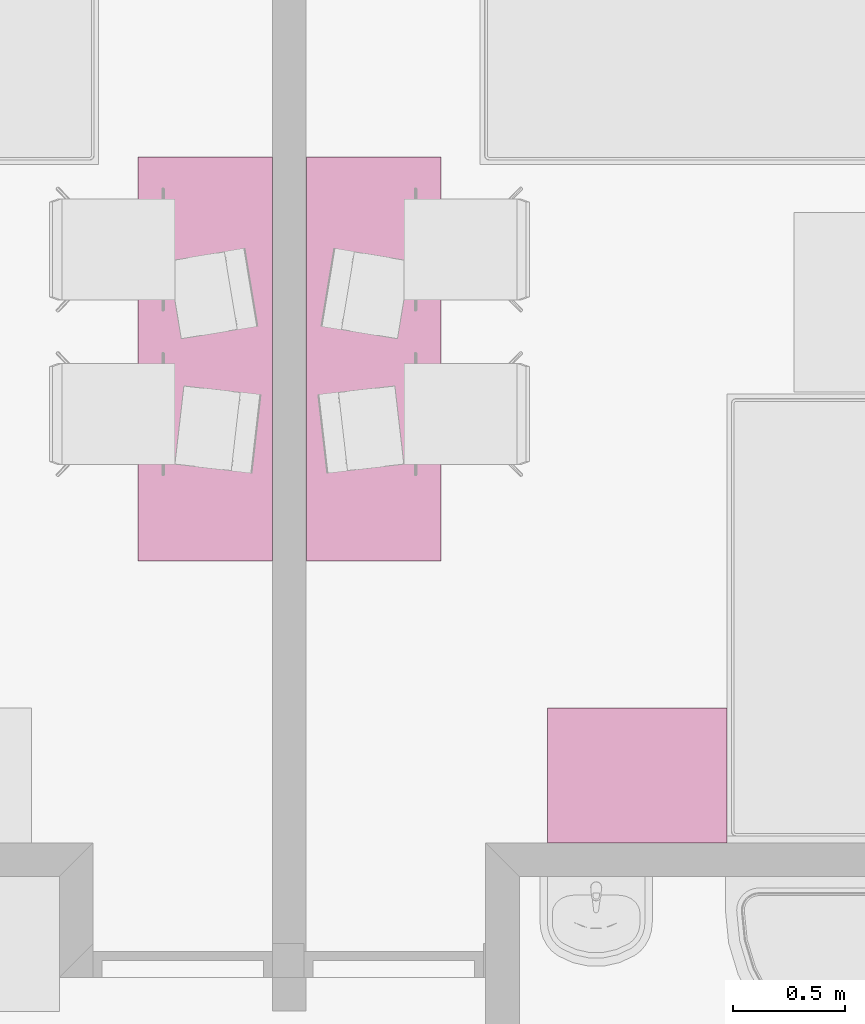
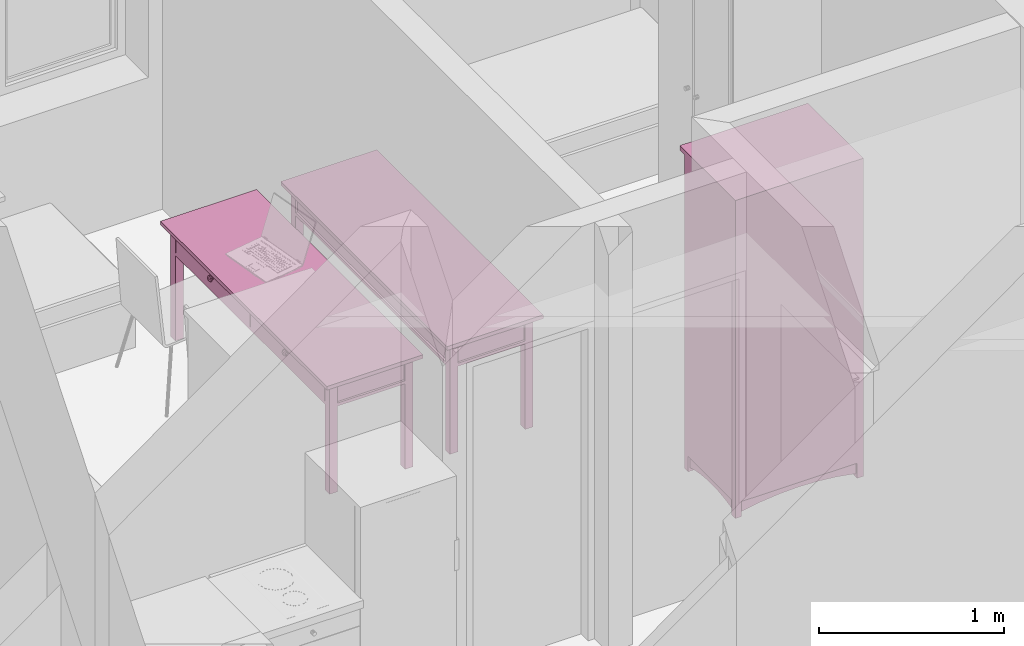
# One storey, part 113 of 172: 3 furnishings.
"""IFC2X3 building model written with IfcOpenShell, lengths in millimetres."""

from ifc_helpers import new_model, entity, si_unit, converted_unit, money_unit, direction, frame, origin_with_axes, place, context, subcontext, project, spatial, faceted_brep, source, transform, mapped, material, material_list, type_object, element, save


model = new_model("IFC2X3")

# Units and contexts
model_context = context("Model", 3, precision=1e-05, world=origin_with_axes(), true_north=direction((0.0, 1.0)))
body_context = subcontext(model_context, "Body", "Model", "MODEL_VIEW")
ifc_project = project(units=[si_unit("LENGTHUNIT", "METRE", prefix="MILLI"), si_unit("AREAUNIT", "SQUARE_METRE"), si_unit("VOLUMEUNIT", "CUBIC_METRE"), converted_unit("PLANEANGLEUNIT", "DEGREE", entity("IfcPlaneAngleMeasure", 0.0174532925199), si_unit("PLANEANGLEUNIT", "RADIAN"), dimensions=[0, 0, 0, 0, 0, 0, 0]), si_unit("SOLIDANGLEUNIT", "STERADIAN"), money_unit("USD"), converted_unit("TIMEUNIT", "Year", entity("IfcTimeMeasure", 31556926.0), si_unit("TIMEUNIT", "SECOND"), dimensions=[0, 0, 0, 0, 0, 0, 0]), si_unit("MASSUNIT", "GRAM"), si_unit("THERMODYNAMICTEMPERATUREUNIT", "DEGREE_CELSIUS"), si_unit("LUMINOUSINTENSITYUNIT", "LUMEN")], contexts=[model_context])

# Site, building, storey
site_placement = place(None, origin_with_axes())
site = spatial("IfcSite", under=ifc_project, at=site_placement, Name="Site", CompositionType="ELEMENT")
building_placement = place(site_placement, origin_with_axes())
building = spatial("IfcBuilding", under=site, at=building_placement, Name="Building", CompositionType="ELEMENT")
storey_placement = place(building_placement, frame((0.0, 0.0, 3200.0), z_axis=(0.0, 0.0, 1.0), x_axis=(1.0, 0.0, 0.0)))
storey = spatial("IfcBuildingStorey", under=building, at=storey_placement, Name="3KORRUS", CompositionType="ELEMENT", Elevation=3200.0)

# Furnishings
ifc_material = material(Name="Background")
ifc_material_list = material_list([ifc_material])
furnishing_element_type_1 = type_object("IfcFurnishingElementType", Name="Cupboard 19")
shared_shape_1 = source(origin_with_axes(), body_context, "Body", "Brep", [
    faceted_brep([(-780.0, 600.0, 120.0), (-780.0, 580.0, 120.0), (-780.0, 580.0, 2050.0), (-780.0, 600.0, 2050.0), (-20.0, 600.0, 120.0), (-20.0, 580.0, 120.0), (-20.0, 580.0, 2050.0), (-20.0, 600.0, 2050.0)], [[[0, 1, 2, 3]], [[0, 4, 5, 1]], [[1, 5, 6, 2]], [[3, 2, 6, 7]], [[4, 0, 3, 7]], [[5, 4, 7, 6]]]),
    faceted_brep([(0.0, 50.0, 100.0), (-20.0, 50.0, 100.0), (-20.0, 600.0, 100.0), (0.0, 600.0, 100.0), (0.0, 50.0, 2070.0), (-20.0, 50.0, 2070.0), (-20.0, 600.0, 2070.0), (0.0, 600.0, 2070.0)], [[[0, 1, 2, 3]], [[1, 0, 4, 5]], [[2, 1, 5, 6]], [[3, 2, 6, 7]], [[0, 3, 7, 4]], [[5, 4, 7, 6]]]),
    faceted_brep([(-780.0, 50.0, 100.0), (-800.0, 50.0, 100.0), (-800.0, 600.0, 100.0), (-780.0, 600.0, 100.0), (-780.0, 50.0, 2070.0), (-800.0, 50.0, 2070.0), (-800.0, 600.0, 2070.0), (-780.0, 600.0, 2070.0)], [[[0, 1, 2, 3]], [[1, 0, 4, 5]], [[2, 1, 5, 6]], [[3, 2, 6, 7]], [[0, 3, 7, 4]], [[5, 4, 7, 6]]]),
    faceted_brep([(-20.0, 50.0, 100.0), (-780.0, 50.0, 100.0), (-780.0, 600.0, 100.0), (-20.0, 600.0, 100.0), (-20.0, 50.0, 120.0), (-780.0, 50.0, 120.0), (-780.0, 600.0, 120.0), (-20.0, 600.0, 120.0)], [[[0, 1, 2, 3]], [[1, 0, 4, 5]], [[2, 1, 5, 6]], [[3, 2, 6, 7]], [[0, 3, 7, 4]], [[5, 4, 7, 6]]]),
    faceted_brep([(-20.0, 50.0, 2050.0), (-780.0, 50.0, 2050.0), (-780.0, 600.0, 2050.0), (-20.0, 600.0, 2050.0), (-20.0, 50.0, 2070.0), (-780.0, 50.0, 2070.0), (-780.0, 600.0, 2070.0), (-20.0, 600.0, 2070.0)], [[[0, 1, 2, 3]], [[1, 0, 4, 5]], [[2, 1, 5, 6]], [[3, 2, 6, 7]], [[0, 3, 7, 4]], [[5, 4, 7, 6]]]),
    faceted_brep([(0.0, 600.0, 2070.0), (0.0, 600.0, 2100.0), (0.0, 0.0, 2100.0), (0.0, 0.0, 2070.0), (-800.0, 600.0, 2070.0), (-800.0, 600.0, 2100.0), (-800.0, 0.0, 2100.0), (-800.0, 0.0, 2070.0)], [[[0, 1, 2, 3]], [[4, 5, 1, 0]], [[1, 5, 6, 2]], [[3, 2, 6, 7]], [[0, 3, 7, 4]], [[7, 6, 5, 4]]]),
    faceted_brep([(-760.0, 590.0, 25.0), (-640.962, 590.0, 45.8), (-640.962, 570.0, 45.8), (-760.0, 570.0, 25.0), (-760.0, 590.0, 100.0), (-40.0, 590.0, 100.0), (-40.0, 590.0, 25.0), (-159.038, 590.0, 45.8), (-279.23, 590.0, 58.32), (-400.0, 590.0, 62.5), (-520.77, 590.0, 58.32), (-520.77, 570.0, 58.32), (-400.0, 570.0, 62.5), (-279.23, 570.0, 58.32), (-159.038, 570.0, 45.8), (-40.0, 570.0, 25.0), (-40.0, 570.0, 100.0), (-760.0, 570.0, 100.0)], [[[0, 1, 2, 3]], [[0, 4, 5, 6, 7, 8, 9, 10, 1]], [[1, 10, 11, 2]], [[3, 2, 11, 12, 13, 14, 15, 16, 17]], [[4, 0, 3, 17]], [[5, 4, 17, 16]], [[6, 5, 16, 15]], [[7, 6, 15, 14]], [[8, 7, 14, 13]], [[9, 8, 13, 12]], [[10, 9, 12, 11]]]),
    faceted_brep([(-760.0, 80.0, 25.0), (-640.962, 80.0, 45.8), (-640.962, 60.0, 45.8), (-760.0, 60.0, 25.0), (-760.0, 80.0, 100.0), (-40.0, 80.0, 100.0), (-40.0, 80.0, 25.0), (-159.038, 80.0, 45.8), (-279.23, 80.0, 58.32), (-400.0, 80.0, 62.5), (-520.77, 80.0, 58.32), (-520.77, 60.0, 58.32), (-400.0, 60.0, 62.5), (-279.23, 60.0, 58.32), (-159.038, 60.0, 45.8), (-40.0, 60.0, 25.0), (-40.0, 60.0, 100.0), (-760.0, 60.0, 100.0)], [[[0, 1, 2, 3]], [[0, 4, 5, 6, 7, 8, 9, 10, 1]], [[1, 10, 11, 2]], [[3, 2, 11, 12, 13, 14, 15, 16, 17]], [[4, 0, 3, 17]], [[5, 4, 17, 16]], [[6, 5, 16, 15]], [[7, 6, 15, 14]], [[8, 7, 14, 13]], [[9, 8, 13, 12]], [[10, 9, 12, 11]]]),
    faceted_brep([(-790.0, 90.0, 25.0), (-790.0, 141.266, 38.072), (-770.0, 141.266, 38.072), (-770.0, 90.0, 25.0), (-790.0, 90.0, 100.0), (-790.0, 560.0, 100.0), (-790.0, 560.0, 25.0), (-790.0, 508.734, 38.072), (-790.0, 456.752, 47.92), (-790.0, 404.257, 54.508), (-790.0, 351.453, 57.808), (-790.0, 298.547, 57.808), (-790.0, 245.743, 54.508), (-790.0, 193.248, 47.92), (-770.0, 193.248, 47.92), (-770.0, 245.743, 54.508), (-770.0, 298.547, 57.808), (-770.0, 351.453, 57.808), (-770.0, 404.257, 54.508), (-770.0, 456.752, 47.92), (-770.0, 508.734, 38.072), (-770.0, 560.0, 25.0), (-770.0, 560.0, 100.0), (-770.0, 90.0, 100.0)], [[[0, 1, 2, 3]], [[0, 4, 5, 6, 7, 8, 9, 10, 11, 12, 13, 1]], [[1, 13, 14, 2]], [[3, 2, 14, 15, 16, 17, 18, 19, 20, 21, 22, 23]], [[4, 0, 3, 23]], [[5, 4, 23, 22]], [[6, 5, 22, 21]], [[7, 6, 21, 20]], [[8, 7, 20, 19]], [[9, 8, 19, 18]], [[10, 9, 18, 17]], [[11, 10, 17, 16]], [[12, 11, 16, 15]], [[13, 12, 15, 14]]]),
    faceted_brep([(-30.0, 90.0, 25.0), (-30.0, 141.266, 38.072), (-10.0, 141.266, 38.072), (-10.0, 90.0, 25.0), (-30.0, 90.0, 100.0), (-30.0, 560.0, 100.0), (-30.0, 560.0, 25.0), (-30.0, 508.734, 38.072), (-30.0, 456.752, 47.92), (-30.0, 404.257, 54.508), (-30.0, 351.453, 57.808), (-30.0, 298.547, 57.808), (-30.0, 245.743, 54.508), (-30.0, 193.248, 47.92), (-10.0, 193.248, 47.92), (-10.0, 245.743, 54.508), (-10.0, 298.547, 57.808), (-10.0, 351.453, 57.808), (-10.0, 404.257, 54.508), (-10.0, 456.752, 47.92), (-10.0, 508.734, 38.072), (-10.0, 560.0, 25.0), (-10.0, 560.0, 100.0), (-10.0, 90.0, 100.0)], [[[0, 1, 2, 3]], [[0, 4, 5, 6, 7, 8, 9, 10, 11, 12, 13, 1]], [[1, 13, 14, 2]], [[3, 2, 14, 15, 16, 17, 18, 19, 20, 21, 22, 23]], [[4, 0, 3, 23]], [[5, 4, 23, 22]], [[6, 5, 22, 21]], [[7, 6, 21, 20]], [[8, 7, 20, 19]], [[9, 8, 19, 18]], [[10, 9, 18, 17]], [[11, 10, 17, 16]], [[12, 11, 16, 15]], [[13, 12, 15, 14]]]),
    faceted_brep([(-760.0, 560.0, 0.0), (-760.0, 600.0, 0.0), (-760.0, 600.0, 100.0), (-760.0, 560.0, 100.0), (-800.0, 560.0, 0.0), (-800.0, 600.0, 0.0), (-800.0, 600.0, 100.0), (-800.0, 560.0, 100.0)], [[[0, 1, 2, 3]], [[0, 4, 5, 1]], [[1, 5, 6, 2]], [[3, 2, 6, 7]], [[4, 0, 3, 7]], [[5, 4, 7, 6]]]),
    faceted_brep([(0.0, 560.0, 0.0), (0.0, 600.0, 0.0), (0.0, 600.0, 100.0), (0.0, 560.0, 100.0), (-40.0, 560.0, 0.0), (-40.0, 600.0, 0.0), (-40.0, 600.0, 100.0), (-40.0, 560.0, 100.0)], [[[0, 1, 2, 3]], [[0, 4, 5, 1]], [[1, 5, 6, 2]], [[3, 2, 6, 7]], [[4, 0, 3, 7]], [[5, 4, 7, 6]]]),
    faceted_brep([(-760.0, 50.0, 0.0), (-760.0, 90.0, 0.0), (-760.0, 90.0, 100.0), (-760.0, 50.0, 100.0), (-800.0, 50.0, 0.0), (-800.0, 90.0, 0.0), (-800.0, 90.0, 100.0), (-800.0, 50.0, 100.0)], [[[0, 1, 2, 3]], [[0, 4, 5, 1]], [[1, 5, 6, 2]], [[3, 2, 6, 7]], [[4, 0, 3, 7]], [[5, 4, 7, 6]]]),
    faceted_brep([(0.0, 50.0, 0.0), (0.0, 90.0, 0.0), (0.0, 90.0, 100.0), (0.0, 50.0, 100.0), (-40.0, 50.0, 0.0), (-40.0, 90.0, 0.0), (-40.0, 90.0, 100.0), (-40.0, 50.0, 100.0)], [[[0, 1, 2, 3]], [[0, 4, 5, 1]], [[1, 5, 6, 2]], [[3, 2, 6, 7]], [[4, 0, 3, 7]], [[5, 4, 7, 6]]]),
    faceted_brep([(-780.0, 580.0, 587.5), (-780.0, 50.0, 587.5), (-780.0, 50.0, 607.5), (-780.0, 580.0, 607.5), (-20.0, 580.0, 587.5), (-20.0, 50.0, 587.5), (-20.0, 50.0, 607.5), (-20.0, 580.0, 607.5)], [[[0, 1, 2, 3]], [[0, 4, 5, 1]], [[1, 5, 6, 2]], [[3, 2, 6, 7]], [[4, 0, 3, 7]], [[5, 4, 7, 6]]]),
    faceted_brep([(-780.0, 580.0, 1075.0), (-780.0, 50.0, 1075.0), (-780.0, 50.0, 1095.0), (-780.0, 580.0, 1095.0), (-20.0, 580.0, 1075.0), (-20.0, 50.0, 1075.0), (-20.0, 50.0, 1095.0), (-20.0, 580.0, 1095.0)], [[[0, 1, 2, 3]], [[0, 4, 5, 1]], [[1, 5, 6, 2]], [[3, 2, 6, 7]], [[4, 0, 3, 7]], [[5, 4, 7, 6]]]),
    faceted_brep([(-780.0, 580.0, 1562.5), (-780.0, 50.0, 1562.5), (-780.0, 50.0, 1582.5), (-780.0, 580.0, 1582.5), (-20.0, 580.0, 1562.5), (-20.0, 50.0, 1562.5), (-20.0, 50.0, 1582.5), (-20.0, 580.0, 1582.5)], [[[0, 1, 2, 3]], [[0, 4, 5, 1]], [[1, 5, 6, 2]], [[3, 2, 6, 7]], [[4, 0, 3, 7]], [[5, 4, 7, 6]]]),
    faceted_brep([(-789.5, 50.0, 110.5), (-789.5, 50.0, 2059.5), (-400.5, 50.0, 2059.5), (-400.5, 50.0, 110.5), (-789.5, 40.0, 110.5), (-789.5, 40.0, 2059.5), (-400.5, 40.0, 2059.5), (-400.5, 40.0, 110.5), (-779.5, 30.0, 120.5), (-779.5, 30.0, 2049.5), (-410.5, 30.0, 2049.5), (-410.5, 30.0, 120.5)], [[[0, 1, 2, 3]], [[1, 0, 4, 5]], [[2, 1, 5, 6]], [[3, 2, 6, 7]], [[0, 3, 7, 4]], [[5, 4, 8, 9]], [[6, 5, 9, 10]], [[7, 6, 10, 11]], [[4, 7, 11, 8]], [[10, 9, 8, 11]]]),
    faceted_brep([(-399.5, 50.0, 110.5), (-399.5, 50.0, 2059.5), (-10.5, 50.0, 2059.5), (-10.5, 50.0, 110.5), (-399.5, 40.0, 110.5), (-399.5, 40.0, 2059.5), (-10.5, 40.0, 2059.5), (-10.5, 40.0, 110.5), (-389.5, 30.0, 120.5), (-389.5, 30.0, 2049.5), (-20.5, 30.0, 2049.5), (-20.5, 30.0, 120.5)], [[[0, 1, 2, 3]], [[1, 0, 4, 5]], [[2, 1, 5, 6]], [[3, 2, 6, 7]], [[0, 3, 7, 4]], [[5, 4, 8, 9]], [[6, 5, 9, 10]], [[7, 6, 10, 11]], [[4, 7, 11, 8]], [[10, 9, 8, 11]]]),
    faceted_brep([(-339.608, 30.0, 954.0), (-344.0, 30.0, 949.608), (-350.0, 30.0, 948.0), (-356.0, 30.0, 949.608), (-360.392, 30.0, 954.0), (-362.0, 30.0, 960.0), (-360.392, 30.0, 966.0), (-356.0, 30.0, 970.392), (-350.0, 30.0, 972.0), (-344.0, 30.0, 970.392), (-339.608, 30.0, 966.0), (-338.0, 30.0, 960.0), (-339.608, 5.0, 954.0), (-344.0, 5.0, 949.608), (-350.0, 5.0, 948.0), (-356.0, 5.0, 949.608), (-360.392, 5.0, 954.0), (-362.0, 5.0, 960.0), (-360.392, 5.0, 966.0), (-356.0, 5.0, 970.392), (-350.0, 5.0, 972.0), (-344.0, 5.0, 970.392), (-339.608, 5.0, 966.0), (-338.0, 5.0, 960.0)], [[[0, 1, 2, 3, 4, 5, 6, 7, 8, 9, 10, 11]], [[1, 0, 12, 13]], [[2, 1, 13, 14]], [[3, 2, 14, 15]], [[4, 3, 15, 16]], [[5, 4, 16, 17]], [[6, 5, 17, 18]], [[7, 6, 18, 19]], [[8, 7, 19, 20]], [[9, 8, 20, 21]], [[10, 9, 21, 22]], [[11, 10, 22, 23]], [[0, 11, 23, 12]], [[12, 23, 22, 21, 20, 19, 18, 17, 16, 15, 14, 13]]]),
    faceted_brep([(-460.392, 30.0, 954.0), (-462.0, 30.0, 960.0), (-460.392, 30.0, 966.0), (-456.0, 30.0, 970.392), (-450.0, 30.0, 972.0), (-444.0, 30.0, 970.392), (-439.608, 30.0, 966.0), (-438.0, 30.0, 960.0), (-439.608, 30.0, 954.0), (-444.0, 30.0, 949.608), (-450.0, 30.0, 948.0), (-456.0, 30.0, 949.608), (-460.392, 5.0, 954.0), (-462.0, 5.0, 960.0), (-460.392, 5.0, 966.0), (-456.0, 5.0, 970.392), (-450.0, 5.0, 972.0), (-444.0, 5.0, 970.392), (-439.608, 5.0, 966.0), (-438.0, 5.0, 960.0), (-439.608, 5.0, 954.0), (-444.0, 5.0, 949.608), (-450.0, 5.0, 948.0), (-456.0, 5.0, 949.608)], [[[0, 1, 2, 3, 4, 5, 6, 7, 8, 9, 10, 11]], [[0, 12, 13, 1]], [[1, 13, 14, 2]], [[2, 14, 15, 3]], [[3, 15, 16, 4]], [[4, 16, 17, 5]], [[5, 17, 18, 6]], [[6, 18, 19, 7]], [[7, 19, 20, 8]], [[8, 20, 21, 9]], [[9, 21, 22, 10]], [[10, 22, 23, 11]], [[11, 23, 12, 0]], [[12, 23, 22, 21, 20, 19, 18, 17, 16, 15, 14, 13]]]),
])
furnishing_1_placement = place(storey_placement, frame((-31990.2967033, -8616.37850445, 0.0), z_axis=(0.0, 0.0, 1.0), x_axis=(-1.0, 0.0, 0.0)))
element("IfcFurnishingElement", 1, at=furnishing_1_placement, inside=storey, type_object=furnishing_element_type_1, material=ifc_material_list, Name="FU - 014", context=body_context, shape_type="MappedRepresentation", body=[
    mapped(shared_shape_1, transform((0.0, 0.0, 0.0))),
])
furnishing_element_type_2 = type_object("IfcFurnishingElementType", Name="Rectangular Table 01 19")
shared_shape_2 = source(origin_with_axes(), body_context, "Body", "Brep", [
    faceted_brep([(-90.0, 40.0, 0.0), (-90.0, 90.0, 0.0), (-40.0, 90.0, 0.0), (-40.0, 40.0, 0.0), (-90.0, 40.0, 725.0), (-90.0, 90.0, 725.0), (-40.0, 90.0, 725.0), (-40.0, 40.0, 725.0)], [[[0, 1, 2, 3]], [[0, 4, 5, 1]], [[1, 5, 6, 2]], [[2, 6, 7, 3]], [[3, 7, 4, 0]], [[7, 6, 5, 4]]]),
    faceted_brep([(-1760.0, 40.0, 0.0), (-1760.0, 90.0, 0.0), (-1710.0, 90.0, 0.0), (-1710.0, 40.0, 0.0), (-1760.0, 40.0, 725.0), (-1760.0, 90.0, 725.0), (-1710.0, 90.0, 725.0), (-1710.0, 40.0, 725.0)], [[[0, 1, 2, 3]], [[0, 4, 5, 1]], [[1, 5, 6, 2]], [[2, 6, 7, 3]], [[3, 7, 4, 0]], [[7, 6, 5, 4]]]),
    faceted_brep([(-90.0, 510.0, 0.0), (-90.0, 560.0, 0.0), (-40.0, 560.0, 0.0), (-40.0, 510.0, 0.0), (-90.0, 510.0, 725.0), (-90.0, 560.0, 725.0), (-40.0, 560.0, 725.0), (-40.0, 510.0, 725.0)], [[[0, 1, 2, 3]], [[0, 4, 5, 1]], [[1, 5, 6, 2]], [[2, 6, 7, 3]], [[3, 7, 4, 0]], [[7, 6, 5, 4]]]),
    faceted_brep([(-1760.0, 510.0, 0.0), (-1760.0, 560.0, 0.0), (-1710.0, 560.0, 0.0), (-1710.0, 510.0, 0.0), (-1760.0, 510.0, 725.0), (-1760.0, 560.0, 725.0), (-1710.0, 560.0, 725.0), (-1710.0, 510.0, 725.0)], [[[0, 1, 2, 3]], [[0, 4, 5, 1]], [[1, 5, 6, 2]], [[2, 6, 7, 3]], [[3, 7, 4, 0]], [[7, 6, 5, 4]]]),
    faceted_brep([(-1760.0, 40.0, 565.0), (-1760.0, 560.0, 565.0), (-40.0, 560.0, 565.0), (-40.0, 40.0, 565.0), (-1760.0, 40.0, 585.0), (-1760.0, 560.0, 585.0), (-40.0, 560.0, 585.0), (-40.0, 40.0, 585.0)], [[[0, 1, 2, 3]], [[0, 4, 5, 1]], [[1, 5, 6, 2]], [[2, 6, 7, 3]], [[3, 7, 4, 0]], [[7, 6, 5, 4]]]),
    faceted_brep([(-1710.0, 52.5, 585.0), (-1710.0, 77.5, 585.0), (-90.0, 77.5, 585.0), (-90.0, 52.5, 585.0), (-1710.0, 52.5, 745.0), (-1710.0, 77.5, 745.0), (-90.0, 77.5, 745.0), (-90.0, 52.5, 745.0)], [[[0, 1, 2, 3]], [[0, 4, 5, 1]], [[1, 5, 6, 2]], [[2, 6, 7, 3]], [[3, 7, 4, 0]], [[7, 6, 5, 4]]]),
    faceted_brep([(-77.5, 90.0, 585.0), (-77.5, 510.0, 585.0), (-52.5, 510.0, 585.0), (-52.5, 90.0, 585.0), (-77.5, 90.0, 745.0), (-77.5, 510.0, 745.0), (-52.5, 510.0, 745.0), (-52.5, 90.0, 745.0)], [[[0, 1, 2, 3]], [[0, 4, 5, 1]], [[1, 5, 6, 2]], [[2, 6, 7, 3]], [[3, 7, 4, 0]], [[7, 6, 5, 4]]]),
    faceted_brep([(-90.0, 547.5, 585.0), (-90.0, 522.5, 585.0), (-1710.0, 522.5, 585.0), (-1710.0, 547.5, 585.0), (-90.0, 547.5, 745.0), (-90.0, 522.5, 745.0), (-1710.0, 522.5, 745.0), (-1710.0, 547.5, 745.0)], [[[0, 1, 2, 3]], [[0, 4, 5, 1]], [[1, 5, 6, 2]], [[2, 6, 7, 3]], [[3, 7, 4, 0]], [[7, 6, 5, 4]]]),
    faceted_brep([(-1722.5, 510.0, 585.0), (-1722.5, 90.0, 585.0), (-1747.5, 90.0, 585.0), (-1747.5, 510.0, 585.0), (-1722.5, 510.0, 745.0), (-1722.5, 90.0, 745.0), (-1747.5, 90.0, 745.0), (-1747.5, 510.0, 745.0)], [[[0, 1, 2, 3]], [[0, 4, 5, 1]], [[1, 5, 6, 2]], [[2, 6, 7, 3]], [[3, 7, 4, 0]], [[7, 6, 5, 4]]]),
    faceted_brep([(-897.5, 40.0, 585.0), (-897.5, 60.0, 585.0), (-95.0, 60.0, 585.0), (-95.0, 40.0, 585.0), (-897.5, 40.0, 745.0), (-897.5, 60.0, 745.0), (-95.0, 60.0, 745.0), (-95.0, 40.0, 745.0)], [[[0, 1, 2, 3]], [[0, 4, 5, 1]], [[1, 5, 6, 2]], [[2, 6, 7, 3]], [[3, 7, 4, 0]], [[7, 6, 5, 4]]]),
    faceted_brep([(-1705.0, 40.0, 585.0), (-1705.0, 60.0, 585.0), (-902.5, 60.0, 585.0), (-902.5, 40.0, 585.0), (-1705.0, 40.0, 745.0), (-1705.0, 60.0, 745.0), (-902.5, 60.0, 745.0), (-902.5, 40.0, 745.0)], [[[0, 1, 2, 3]], [[0, 4, 5, 1]], [[1, 5, 6, 2]], [[2, 6, 7, 3]], [[3, 7, 4, 0]], [[7, 6, 5, 4]]]),
    faceted_brep([(-504.91, 40.0, 660.0), (-506.25, 40.0, 665.0), (-504.91, 40.0, 670.0), (-501.25, 40.0, 673.66), (-496.25, 40.0, 675.0), (-491.25, 40.0, 673.66), (-487.59, 40.0, 670.0), (-486.25, 40.0, 665.0), (-487.59, 40.0, 660.0), (-491.25, 40.0, 656.34), (-496.25, 40.0, 655.0), (-501.25, 40.0, 656.34), (-504.91, 25.0, 660.0), (-506.25, 25.0, 665.0), (-504.91, 25.0, 670.0), (-501.25, 25.0, 673.66), (-496.25, 25.0, 675.0), (-491.25, 25.0, 673.66), (-487.59, 25.0, 670.0), (-486.25, 25.0, 665.0), (-487.59, 25.0, 660.0), (-491.25, 25.0, 656.34), (-496.25, 25.0, 655.0), (-501.25, 25.0, 656.34)], [[[0, 1, 2, 3, 4, 5, 6, 7, 8, 9, 10, 11]], [[0, 12, 13, 1]], [[1, 13, 14, 2]], [[2, 14, 15, 3]], [[3, 15, 16, 4]], [[4, 16, 17, 5]], [[5, 17, 18, 6]], [[6, 18, 19, 7]], [[7, 19, 20, 8]], [[8, 20, 21, 9]], [[9, 21, 22, 10]], [[10, 22, 23, 11]], [[11, 23, 12, 0]], [[12, 23, 22, 21, 20, 19, 18, 17, 16, 15, 14, 13]]]),
    faceted_brep([(-506.25, 12.01, 665.0), (-504.91, 12.01, 660.0), (-496.25, 10.0, 665.0), (-513.571, 17.5, 665.0), (-511.25, 17.5, 656.34), (-501.25, 12.01, 656.34), (-504.91, 12.01, 670.0), (-516.25, 25.0, 665.0), (-513.571, 25.0, 655.0), (-504.91, 17.5, 650.0), (-511.25, 17.5, 673.66), (-496.25, 12.01, 655.0), (-501.25, 12.01, 673.66), (-513.571, 25.0, 675.0), (-506.25, 25.0, 682.321), (-496.25, 25.0, 685.0), (-486.25, 25.0, 682.321), (-478.929, 25.0, 675.0), (-476.25, 25.0, 665.0), (-478.929, 25.0, 655.0), (-486.25, 25.0, 647.679), (-496.25, 25.0, 645.0), (-506.25, 25.0, 647.679), (-496.25, 17.5, 647.679), (-504.91, 17.5, 680.0), (-491.25, 12.01, 656.34), (-496.25, 12.01, 675.0), (-496.25, 17.5, 682.321), (-487.59, 17.5, 680.0), (-481.25, 17.5, 673.66), (-478.929, 17.5, 665.0), (-481.25, 17.5, 656.34), (-487.59, 17.5, 650.0), (-487.59, 12.01, 660.0), (-491.25, 12.01, 673.66), (-487.59, 12.01, 670.0), (-486.25, 12.01, 665.0)], [[[0, 1, 2]], [[3, 4, 1, 0]], [[1, 5, 2]], [[6, 0, 2]], [[7, 8, 4, 3]], [[4, 9, 5, 1]], [[10, 3, 0, 6]], [[5, 11, 2]], [[12, 6, 2]], [[8, 7, 13, 14, 15, 16, 17, 18, 19, 20, 21, 22]], [[8, 22, 9, 4]], [[13, 7, 3, 10]], [[9, 23, 11, 5]], [[24, 10, 6, 12]], [[11, 25, 2]], [[26, 12, 2]], [[14, 13, 10, 24]], [[15, 14, 24, 27]], [[16, 15, 27, 28]], [[17, 16, 28, 29]], [[18, 17, 29, 30]], [[19, 18, 30, 31]], [[20, 19, 31, 32]], [[21, 20, 32, 23]], [[22, 21, 23, 9]], [[23, 32, 25, 11]], [[27, 24, 12, 26]], [[25, 33, 2]], [[34, 26, 2]], [[28, 27, 26, 34]], [[29, 28, 34, 35]], [[30, 29, 35, 36]], [[31, 30, 36, 33]], [[32, 31, 33, 25]], [[33, 36, 2]], [[35, 34, 2]], [[36, 35, 2]]]),
    faceted_brep([(-1312.41, 40.0, 660.0), (-1313.75, 40.0, 665.0), (-1312.41, 40.0, 670.0), (-1308.75, 40.0, 673.66), (-1303.75, 40.0, 675.0), (-1298.75, 40.0, 673.66), (-1295.09, 40.0, 670.0), (-1293.75, 40.0, 665.0), (-1295.09, 40.0, 660.0), (-1298.75, 40.0, 656.34), (-1303.75, 40.0, 655.0), (-1308.75, 40.0, 656.34), (-1312.41, 25.0, 660.0), (-1313.75, 25.0, 665.0), (-1312.41, 25.0, 670.0), (-1308.75, 25.0, 673.66), (-1303.75, 25.0, 675.0), (-1298.75, 25.0, 673.66), (-1295.09, 25.0, 670.0), (-1293.75, 25.0, 665.0), (-1295.09, 25.0, 660.0), (-1298.75, 25.0, 656.34), (-1303.75, 25.0, 655.0), (-1308.75, 25.0, 656.34)], [[[0, 1, 2, 3, 4, 5, 6, 7, 8, 9, 10, 11]], [[0, 12, 13, 1]], [[1, 13, 14, 2]], [[2, 14, 15, 3]], [[3, 15, 16, 4]], [[4, 16, 17, 5]], [[5, 17, 18, 6]], [[6, 18, 19, 7]], [[7, 19, 20, 8]], [[8, 20, 21, 9]], [[9, 21, 22, 10]], [[10, 22, 23, 11]], [[11, 23, 12, 0]], [[12, 23, 22, 21, 20, 19, 18, 17, 16, 15, 14, 13]]]),
    faceted_brep([(-1313.75, 12.01, 665.0), (-1312.41, 12.01, 660.0), (-1303.75, 10.0, 665.0), (-1321.071, 17.5, 665.0), (-1318.75, 17.5, 656.34), (-1308.75, 12.01, 656.34), (-1312.41, 12.01, 670.0), (-1323.75, 25.0, 665.0), (-1321.071, 25.0, 655.0), (-1312.41, 17.5, 650.0), (-1318.75, 17.5, 673.66), (-1303.75, 12.01, 655.0), (-1308.75, 12.01, 673.66), (-1321.071, 25.0, 675.0), (-1313.75, 25.0, 682.321), (-1303.75, 25.0, 685.0), (-1293.75, 25.0, 682.321), (-1286.429, 25.0, 675.0), (-1283.75, 25.0, 665.0), (-1286.429, 25.0, 655.0), (-1293.75, 25.0, 647.679), (-1303.75, 25.0, 645.0), (-1313.75, 25.0, 647.679), (-1303.75, 17.5, 647.679), (-1312.41, 17.5, 680.0), (-1298.75, 12.01, 656.34), (-1303.75, 12.01, 675.0), (-1303.75, 17.5, 682.321), (-1295.09, 17.5, 680.0), (-1288.75, 17.5, 673.66), (-1286.429, 17.5, 665.0), (-1288.75, 17.5, 656.34), (-1295.09, 17.5, 650.0), (-1295.09, 12.01, 660.0), (-1298.75, 12.01, 673.66), (-1295.09, 12.01, 670.0), (-1293.75, 12.01, 665.0)], [[[0, 1, 2]], [[3, 4, 1, 0]], [[1, 5, 2]], [[6, 0, 2]], [[7, 8, 4, 3]], [[4, 9, 5, 1]], [[10, 3, 0, 6]], [[5, 11, 2]], [[12, 6, 2]], [[8, 7, 13, 14, 15, 16, 17, 18, 19, 20, 21, 22]], [[8, 22, 9, 4]], [[13, 7, 3, 10]], [[9, 23, 11, 5]], [[24, 10, 6, 12]], [[11, 25, 2]], [[26, 12, 2]], [[14, 13, 10, 24]], [[15, 14, 24, 27]], [[16, 15, 27, 28]], [[17, 16, 28, 29]], [[18, 17, 29, 30]], [[19, 18, 30, 31]], [[20, 19, 31, 32]], [[21, 20, 32, 23]], [[22, 21, 23, 9]], [[23, 32, 25, 11]], [[27, 24, 12, 26]], [[25, 33, 2]], [[34, 26, 2]], [[28, 27, 26, 34]], [[29, 28, 34, 35]], [[30, 29, 35, 36]], [[31, 30, 36, 33]], [[32, 31, 33, 25]], [[33, 36, 2]], [[35, 34, 2]], [[36, 35, 2]]]),
    faceted_brep([(-1800.0, 0.0, 725.0), (-1800.0, 600.0, 725.0), (0.0, 600.0, 725.0), (0.0, 0.0, 725.0), (-1800.0, 0.0, 750.0), (-1800.0, 600.0, 750.0), (0.0, 600.0, 750.0), (0.0, 0.0, 750.0)], [[[0, 1, 2, 3]], [[0, 4, 5, 1]], [[1, 5, 6, 2]], [[2, 6, 7, 3]], [[3, 7, 4, 0]], [[7, 6, 5, 4]]]),
])
furnishing_2_placement = place(storey_placement, frame((-32464.8498837, -6160.34249668, 0.0), z_axis=(0.0, 0.0, 1.0), x_axis=(0.0, 1.0, 0.0)))
element("IfcFurnishingElement", 2, at=furnishing_2_placement, inside=storey, type_object=furnishing_element_type_2, material=ifc_material_list, Name="FU - 011", context=body_context, shape_type="MappedRepresentation", body=[
    mapped(shared_shape_2, transform((0.0, 0.0, 0.0))),
])
shared_shape_3 = source(origin_with_axes(), body_context, "Body", "Brep", [
    faceted_brep([(90.0, 40.0, 0.0), (40.0, 40.0, 0.0), (40.0, 90.0, 0.0), (90.0, 90.0, 0.0), (90.0, 40.0, 725.0), (40.0, 40.0, 725.0), (40.0, 90.0, 725.0), (90.0, 90.0, 725.0)], [[[0, 1, 2, 3]], [[1, 0, 4, 5]], [[2, 1, 5, 6]], [[3, 2, 6, 7]], [[0, 3, 7, 4]], [[5, 4, 7, 6]]]),
    faceted_brep([(1760.0, 40.0, 0.0), (1710.0, 40.0, 0.0), (1710.0, 90.0, 0.0), (1760.0, 90.0, 0.0), (1760.0, 40.0, 725.0), (1710.0, 40.0, 725.0), (1710.0, 90.0, 725.0), (1760.0, 90.0, 725.0)], [[[0, 1, 2, 3]], [[1, 0, 4, 5]], [[2, 1, 5, 6]], [[3, 2, 6, 7]], [[0, 3, 7, 4]], [[5, 4, 7, 6]]]),
    faceted_brep([(90.0, 510.0, 0.0), (40.0, 510.0, 0.0), (40.0, 560.0, 0.0), (90.0, 560.0, 0.0), (90.0, 510.0, 725.0), (40.0, 510.0, 725.0), (40.0, 560.0, 725.0), (90.0, 560.0, 725.0)], [[[0, 1, 2, 3]], [[1, 0, 4, 5]], [[2, 1, 5, 6]], [[3, 2, 6, 7]], [[0, 3, 7, 4]], [[5, 4, 7, 6]]]),
    faceted_brep([(1760.0, 510.0, 0.0), (1710.0, 510.0, 0.0), (1710.0, 560.0, 0.0), (1760.0, 560.0, 0.0), (1760.0, 510.0, 725.0), (1710.0, 510.0, 725.0), (1710.0, 560.0, 725.0), (1760.0, 560.0, 725.0)], [[[0, 1, 2, 3]], [[1, 0, 4, 5]], [[2, 1, 5, 6]], [[3, 2, 6, 7]], [[0, 3, 7, 4]], [[5, 4, 7, 6]]]),
    faceted_brep([(1760.0, 40.0, 565.0), (40.0, 40.0, 565.0), (40.0, 560.0, 565.0), (1760.0, 560.0, 565.0), (1760.0, 40.0, 585.0), (40.0, 40.0, 585.0), (40.0, 560.0, 585.0), (1760.0, 560.0, 585.0)], [[[0, 1, 2, 3]], [[1, 0, 4, 5]], [[2, 1, 5, 6]], [[3, 2, 6, 7]], [[0, 3, 7, 4]], [[5, 4, 7, 6]]]),
    faceted_brep([(1710.0, 52.5, 585.0), (90.0, 52.5, 585.0), (90.0, 77.5, 585.0), (1710.0, 77.5, 585.0), (1710.0, 52.5, 745.0), (90.0, 52.5, 745.0), (90.0, 77.5, 745.0), (1710.0, 77.5, 745.0)], [[[0, 1, 2, 3]], [[1, 0, 4, 5]], [[2, 1, 5, 6]], [[3, 2, 6, 7]], [[0, 3, 7, 4]], [[5, 4, 7, 6]]]),
    faceted_brep([(77.5, 90.0, 585.0), (52.5, 90.0, 585.0), (52.5, 510.0, 585.0), (77.5, 510.0, 585.0), (77.5, 90.0, 745.0), (52.5, 90.0, 745.0), (52.5, 510.0, 745.0), (77.5, 510.0, 745.0)], [[[0, 1, 2, 3]], [[1, 0, 4, 5]], [[2, 1, 5, 6]], [[3, 2, 6, 7]], [[0, 3, 7, 4]], [[5, 4, 7, 6]]]),
    faceted_brep([(90.0, 547.5, 585.0), (1710.0, 547.5, 585.0), (1710.0, 522.5, 585.0), (90.0, 522.5, 585.0), (90.0, 547.5, 745.0), (1710.0, 547.5, 745.0), (1710.0, 522.5, 745.0), (90.0, 522.5, 745.0)], [[[0, 1, 2, 3]], [[1, 0, 4, 5]], [[2, 1, 5, 6]], [[3, 2, 6, 7]], [[0, 3, 7, 4]], [[5, 4, 7, 6]]]),
    faceted_brep([(1722.5, 510.0, 585.0), (1747.5, 510.0, 585.0), (1747.5, 90.0, 585.0), (1722.5, 90.0, 585.0), (1722.5, 510.0, 745.0), (1747.5, 510.0, 745.0), (1747.5, 90.0, 745.0), (1722.5, 90.0, 745.0)], [[[0, 1, 2, 3]], [[1, 0, 4, 5]], [[2, 1, 5, 6]], [[3, 2, 6, 7]], [[0, 3, 7, 4]], [[5, 4, 7, 6]]]),
    faceted_brep([(897.5, 40.0, 585.0), (95.0, 40.0, 585.0), (95.0, 60.0, 585.0), (897.5, 60.0, 585.0), (897.5, 40.0, 745.0), (95.0, 40.0, 745.0), (95.0, 60.0, 745.0), (897.5, 60.0, 745.0)], [[[0, 1, 2, 3]], [[1, 0, 4, 5]], [[2, 1, 5, 6]], [[3, 2, 6, 7]], [[0, 3, 7, 4]], [[5, 4, 7, 6]]]),
    faceted_brep([(1705.0, 40.0, 585.0), (902.5, 40.0, 585.0), (902.5, 60.0, 585.0), (1705.0, 60.0, 585.0), (1705.0, 40.0, 745.0), (902.5, 40.0, 745.0), (902.5, 60.0, 745.0), (1705.0, 60.0, 745.0)], [[[0, 1, 2, 3]], [[1, 0, 4, 5]], [[2, 1, 5, 6]], [[3, 2, 6, 7]], [[0, 3, 7, 4]], [[5, 4, 7, 6]]]),
    faceted_brep([(504.91, 40.0, 660.0), (501.25, 40.0, 656.34), (496.25, 40.0, 655.0), (491.25, 40.0, 656.34), (487.59, 40.0, 660.0), (486.25, 40.0, 665.0), (487.59, 40.0, 670.0), (491.25, 40.0, 673.66), (496.25, 40.0, 675.0), (501.25, 40.0, 673.66), (504.91, 40.0, 670.0), (506.25, 40.0, 665.0), (504.91, 25.0, 660.0), (501.25, 25.0, 656.34), (496.25, 25.0, 655.0), (491.25, 25.0, 656.34), (487.59, 25.0, 660.0), (486.25, 25.0, 665.0), (487.59, 25.0, 670.0), (491.25, 25.0, 673.66), (496.25, 25.0, 675.0), (501.25, 25.0, 673.66), (504.91, 25.0, 670.0), (506.25, 25.0, 665.0)], [[[0, 1, 2, 3, 4, 5, 6, 7, 8, 9, 10, 11]], [[1, 0, 12, 13]], [[2, 1, 13, 14]], [[3, 2, 14, 15]], [[4, 3, 15, 16]], [[5, 4, 16, 17]], [[6, 5, 17, 18]], [[7, 6, 18, 19]], [[8, 7, 19, 20]], [[9, 8, 20, 21]], [[10, 9, 21, 22]], [[11, 10, 22, 23]], [[0, 11, 23, 12]], [[12, 23, 22, 21, 20, 19, 18, 17, 16, 15, 14, 13]]]),
    faceted_brep([(506.25, 12.01, 665.0), (496.25, 10.0, 665.0), (504.91, 12.01, 660.0), (504.91, 12.01, 670.0), (501.25, 12.01, 656.34), (513.571, 17.5, 665.0), (511.25, 17.5, 656.34), (501.25, 12.01, 673.66), (511.25, 17.5, 673.66), (496.25, 12.01, 655.0), (504.91, 17.5, 650.0), (516.25, 25.0, 665.0), (513.571, 25.0, 655.0), (496.25, 12.01, 675.0), (504.91, 17.5, 680.0), (513.571, 25.0, 675.0), (491.25, 12.01, 656.34), (496.25, 17.5, 647.679), (506.25, 25.0, 647.679), (496.25, 25.0, 645.0), (486.25, 25.0, 647.679), (478.929, 25.0, 655.0), (476.25, 25.0, 665.0), (478.929, 25.0, 675.0), (486.25, 25.0, 682.321), (496.25, 25.0, 685.0), (506.25, 25.0, 682.321), (491.25, 12.01, 673.66), (496.25, 17.5, 682.321), (487.59, 12.01, 660.0), (487.59, 17.5, 650.0), (481.25, 17.5, 656.34), (478.929, 17.5, 665.0), (481.25, 17.5, 673.66), (487.59, 17.5, 680.0), (487.59, 12.01, 670.0), (486.25, 12.01, 665.0)], [[[0, 1, 2]], [[3, 1, 0]], [[2, 1, 4]], [[5, 0, 2, 6]], [[7, 1, 3]], [[8, 3, 0, 5]], [[4, 1, 9]], [[6, 2, 4, 10]], [[11, 5, 6, 12]], [[13, 1, 7]], [[14, 7, 3, 8]], [[15, 8, 5, 11]], [[9, 1, 16]], [[10, 4, 9, 17]], [[12, 6, 10, 18]], [[12, 18, 19, 20, 21, 22, 23, 24, 25, 26, 15, 11]], [[27, 1, 13]], [[28, 13, 7, 14]], [[26, 14, 8, 15]], [[16, 1, 29]], [[17, 9, 16, 30]], [[18, 10, 17, 19]], [[19, 17, 30, 20]], [[20, 30, 31, 21]], [[21, 31, 32, 22]], [[22, 32, 33, 23]], [[23, 33, 34, 24]], [[24, 34, 28, 25]], [[25, 28, 14, 26]], [[35, 1, 27]], [[34, 27, 13, 28]], [[29, 1, 36]], [[30, 16, 29, 31]], [[31, 29, 36, 32]], [[32, 36, 35, 33]], [[33, 35, 27, 34]], [[36, 1, 35]]]),
    faceted_brep([(1312.41, 40.0, 660.0), (1308.75, 40.0, 656.34), (1303.75, 40.0, 655.0), (1298.75, 40.0, 656.34), (1295.09, 40.0, 660.0), (1293.75, 40.0, 665.0), (1295.09, 40.0, 670.0), (1298.75, 40.0, 673.66), (1303.75, 40.0, 675.0), (1308.75, 40.0, 673.66), (1312.41, 40.0, 670.0), (1313.75, 40.0, 665.0), (1312.41, 25.0, 660.0), (1308.75, 25.0, 656.34), (1303.75, 25.0, 655.0), (1298.75, 25.0, 656.34), (1295.09, 25.0, 660.0), (1293.75, 25.0, 665.0), (1295.09, 25.0, 670.0), (1298.75, 25.0, 673.66), (1303.75, 25.0, 675.0), (1308.75, 25.0, 673.66), (1312.41, 25.0, 670.0), (1313.75, 25.0, 665.0)], [[[0, 1, 2, 3, 4, 5, 6, 7, 8, 9, 10, 11]], [[1, 0, 12, 13]], [[2, 1, 13, 14]], [[3, 2, 14, 15]], [[4, 3, 15, 16]], [[5, 4, 16, 17]], [[6, 5, 17, 18]], [[7, 6, 18, 19]], [[8, 7, 19, 20]], [[9, 8, 20, 21]], [[10, 9, 21, 22]], [[11, 10, 22, 23]], [[0, 11, 23, 12]], [[12, 23, 22, 21, 20, 19, 18, 17, 16, 15, 14, 13]]]),
    faceted_brep([(1313.75, 12.01, 665.0), (1303.75, 10.0, 665.0), (1312.41, 12.01, 660.0), (1312.41, 12.01, 670.0), (1308.75, 12.01, 656.34), (1321.071, 17.5, 665.0), (1318.75, 17.5, 656.34), (1308.75, 12.01, 673.66), (1318.75, 17.5, 673.66), (1303.75, 12.01, 655.0), (1312.41, 17.5, 650.0), (1323.75, 25.0, 665.0), (1321.071, 25.0, 655.0), (1303.75, 12.01, 675.0), (1312.41, 17.5, 680.0), (1321.071, 25.0, 675.0), (1298.75, 12.01, 656.34), (1303.75, 17.5, 647.679), (1313.75, 25.0, 647.679), (1303.75, 25.0, 645.0), (1293.75, 25.0, 647.679), (1286.429, 25.0, 655.0), (1283.75, 25.0, 665.0), (1286.429, 25.0, 675.0), (1293.75, 25.0, 682.321), (1303.75, 25.0, 685.0), (1313.75, 25.0, 682.321), (1298.75, 12.01, 673.66), (1303.75, 17.5, 682.321), (1295.09, 12.01, 660.0), (1295.09, 17.5, 650.0), (1288.75, 17.5, 656.34), (1286.429, 17.5, 665.0), (1288.75, 17.5, 673.66), (1295.09, 17.5, 680.0), (1295.09, 12.01, 670.0), (1293.75, 12.01, 665.0)], [[[0, 1, 2]], [[3, 1, 0]], [[2, 1, 4]], [[5, 0, 2, 6]], [[7, 1, 3]], [[8, 3, 0, 5]], [[4, 1, 9]], [[6, 2, 4, 10]], [[11, 5, 6, 12]], [[13, 1, 7]], [[14, 7, 3, 8]], [[15, 8, 5, 11]], [[9, 1, 16]], [[10, 4, 9, 17]], [[12, 6, 10, 18]], [[12, 18, 19, 20, 21, 22, 23, 24, 25, 26, 15, 11]], [[27, 1, 13]], [[28, 13, 7, 14]], [[26, 14, 8, 15]], [[16, 1, 29]], [[17, 9, 16, 30]], [[18, 10, 17, 19]], [[19, 17, 30, 20]], [[20, 30, 31, 21]], [[21, 31, 32, 22]], [[22, 32, 33, 23]], [[23, 33, 34, 24]], [[24, 34, 28, 25]], [[25, 28, 14, 26]], [[35, 1, 27]], [[34, 27, 13, 28]], [[29, 1, 36]], [[30, 16, 29, 31]], [[31, 29, 36, 32]], [[32, 36, 35, 33]], [[33, 35, 27, 34]], [[36, 1, 35]]]),
    faceted_brep([(1800.0, 0.0, 725.0), (0.0, 0.0, 725.0), (0.0, 600.0, 725.0), (1800.0, 600.0, 725.0), (1800.0, 0.0, 750.0), (0.0, 0.0, 750.0), (0.0, 600.0, 750.0), (1800.0, 600.0, 750.0)], [[[0, 1, 2, 3]], [[1, 0, 4, 5]], [[2, 1, 5, 6]], [[3, 2, 6, 7]], [[0, 3, 7, 4]], [[5, 4, 7, 6]]]),
])
furnishing_3_placement = place(storey_placement, frame((-33815.7435229, -6160.34249668, 0.0), z_axis=(0.0, 0.0, 1.0), x_axis=(0.0, -1.0, 0.0)))
element("IfcFurnishingElement", 3, at=furnishing_3_placement, inside=storey, type_object=furnishing_element_type_2, material=ifc_material_list, Name="FU - 011", context=body_context, shape_type="MappedRepresentation", body=[
    mapped(shared_shape_3, transform((0.0, 0.0, 0.0))),
])

save(model, "model.ifc")
